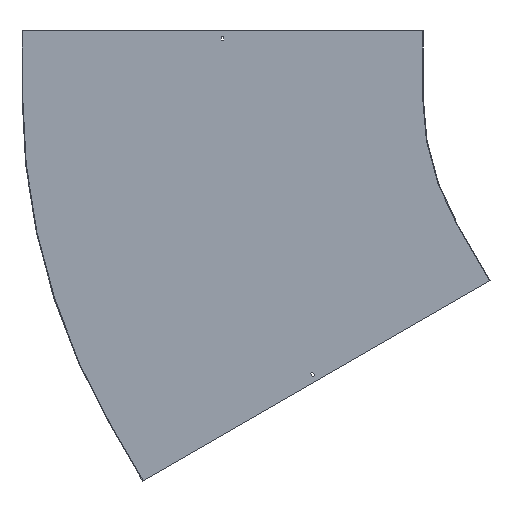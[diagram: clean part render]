
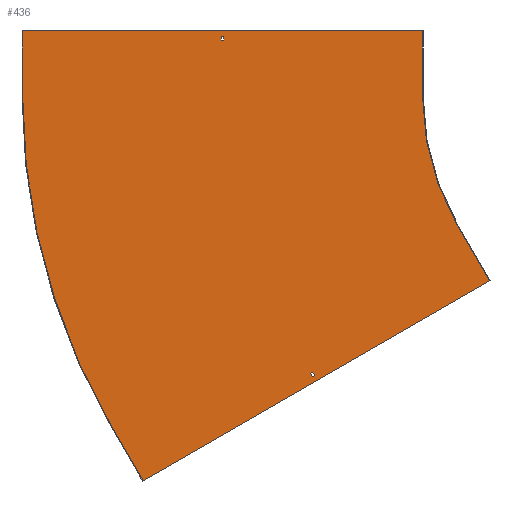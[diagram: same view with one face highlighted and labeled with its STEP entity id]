
A CAD part, front view. The second image highlights one B-rep face of the part: STEP entity #436.
In plain terms, the highlighted planar face has unit normal (0, -1, 0).
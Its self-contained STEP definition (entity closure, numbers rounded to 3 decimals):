
#1 = CARTESIAN_POINT ( 'NONE',  ( -510.955, -1.5, -295. ) ) ;
#23 = CARTESIAN_POINT ( 'NONE',  ( -906.512, -1.5, -523.375 ) ) ;
#27 = DIRECTION ( 'NONE',  ( 0., 0., -1. ) ) ;
#35 = VERTEX_POINT ( 'NONE', #652 ) ;
#38 = EDGE_CURVE ( 'NONE', #483, #448, #443, .T. ) ;
#45 = CARTESIAN_POINT ( 'NONE',  ( -1511.5, -1.5, 150. ) ) ;
#51 = CARTESIAN_POINT ( 'NONE',  ( 0., -1.5, 0. ) ) ;
#56 = ORIENTED_EDGE ( 'NONE', *, *, #722, .F. ) ;
#66 = DIRECTION ( 'NONE',  ( 0.5, 0., -0.866 ) ) ;
#73 = VECTOR ( 'NONE', #94, 1000. ) ;
#91 = ORIENTED_EDGE ( 'NONE', *, *, #267, .F. ) ;
#94 = DIRECTION ( 'NONE',  ( 0., 0., -1. ) ) ;
#95 = EDGE_LOOP ( 'NONE', ( #99, #576, #548, #56, #759, #788, #852, #625 ) ) ;
#99 = ORIENTED_EDGE ( 'NONE', *, *, #442, .F. ) ;
#101 = CARTESIAN_POINT ( 'NONE',  ( 69., -1.5, -119.512 ) ) ;
#102 = VECTOR ( 'NONE', #368, 1000. ) ;
#109 = CARTESIAN_POINT ( 'NONE',  ( 64.5, -1.5, -111.717 ) ) ;
#114 = VERTEX_POINT ( 'NONE', #611 ) ;
#115 = EDGE_CURVE ( 'NONE', #35, #526, #814, .T. ) ;
#123 = EDGE_CURVE ( 'NONE', #371, #804, #274, .T. ) ;
#129 = CARTESIAN_POINT ( 'NONE',  ( -1232.698, -1.5, -884.904 ) ) ;
#149 = VERTEX_POINT ( 'NONE', #337 ) ;
#150 = VECTOR ( 'NONE', #218, 1000. ) ;
#151 = LINE ( 'NONE', #418, #310 ) ;
#160 = VERTEX_POINT ( 'NONE', #798 ) ;
#163 = CARTESIAN_POINT ( 'NONE',  ( -912.141, -1.5, -526.625 ) ) ;
#176 = VERTEX_POINT ( 'NONE', #534 ) ;
#182 = CARTESIAN_POINT ( 'NONE',  ( -1053.25, -1.5, 0. ) ) ;
#187 = DIRECTION ( 'NONE',  ( -0.866, 0., -0.5 ) ) ;
#192 = ORIENTED_EDGE ( 'NONE', *, *, #802, .F. ) ;
#196 = CARTESIAN_POINT ( 'NONE',  ( -1510., -1.5, 0. ) ) ;
#201 = VECTOR ( 'NONE', #556, 1000. ) ;
#204 = ORIENTED_EDGE ( 'NONE', *, *, #551, .T. ) ;
#206 = LINE ( 'NONE', #272, #735 ) ;
#212 = ORIENTED_EDGE ( 'NONE', *, *, #855, .F. ) ;
#218 = DIRECTION ( 'NONE',  ( -0.5, 0., 0.866 ) ) ;
#232 = LINE ( 'NONE', #101, #201 ) ;
#245 = DIRECTION ( 'NONE',  ( 0., 0., 1. ) ) ;
#246 = EDGE_CURVE ( 'NONE', #149, #497, #614, .T. ) ;
#256 = VECTOR ( 'NONE', #431, 1000. ) ;
#263 = ORIENTED_EDGE ( 'NONE', *, *, #429, .T. ) ;
#267 = EDGE_CURVE ( 'NONE', #114, #483, #627, .T. ) ;
#272 = CARTESIAN_POINT ( 'NONE',  ( -1046.75, -1.5, 0. ) ) ;
#274 = LINE ( 'NONE', #196, #384 ) ;
#290 = CARTESIAN_POINT ( 'NONE',  ( 0., -1.5, 129. ) ) ;
#299 = CIRCLE ( 'NONE', #789, 590. ) ;
#310 = VECTOR ( 'NONE', #605, 1000. ) ;
#311 = EDGE_CURVE ( 'NONE', #497, #35, #299, .T. ) ;
#313 = DIRECTION ( 'NONE',  ( 1., 0., 0. ) ) ;
#320 = CARTESIAN_POINT ( 'NONE',  ( -590., -1.5, 0. ) ) ;
#337 = CARTESIAN_POINT ( 'NONE',  ( -590., -1.5, 150. ) ) ;
#340 = CARTESIAN_POINT ( 'NONE',  ( -1046.75, -1.5, 138. ) ) ;
#341 = DIRECTION ( 'NONE',  ( 0., 0., -1. ) ) ;
#354 = EDGE_CURVE ( 'NONE', #768, #854, #624, .T. ) ;
#358 = CARTESIAN_POINT ( 'NONE',  ( -1046.75, -1.5, 129. ) ) ;
#363 = CIRCLE ( 'NONE', #717, 1510. ) ;
#365 = VECTOR ( 'NONE', #187, 1000. ) ;
#368 = DIRECTION ( 'NONE',  ( 1., 0., 0. ) ) ;
#371 = VERTEX_POINT ( 'NONE', #640 ) ;
#377 = CARTESIAN_POINT ( 'NONE',  ( -843.141, -1.5, -646.137 ) ) ;
#384 = VECTOR ( 'NONE', #739, 1000. ) ;
#391 = FACE_OUTER_BOUND ( 'NONE', #95, .T. ) ;
#418 = CARTESIAN_POINT ( 'NONE',  ( -1232.698, -1.5, -884.904 ) ) ;
#420 = VERTEX_POINT ( 'NONE', #377 ) ;
#422 = EDGE_CURVE ( 'NONE', #176, #682, #583, .T. ) ;
#427 = VECTOR ( 'NONE', #245, 1000. ) ;
#429 = EDGE_CURVE ( 'NONE', #854, #176, #522, .T. ) ;
#431 = DIRECTION ( 'NONE',  ( -1., 0., 0. ) ) ;
#433 = DIRECTION ( 'NONE',  ( 0.5, 0., -0.866 ) ) ;
#436 = ADVANCED_FACE ( 'NONE', ( #572, #391, #783 ), #446, .T. ) ;
#442 = EDGE_CURVE ( 'NONE', #804, #149, #646, .T. ) ;
#443 = LINE ( 'NONE', #109, #365 ) ;
#445 = LINE ( 'NONE', #449, #673 ) ;
#446 = PLANE ( 'NONE',  #785 ) ;
#448 = VERTEX_POINT ( 'NONE', #849 ) ;
#449 = CARTESIAN_POINT ( 'NONE',  ( -434.656, -1.5, -424.154 ) ) ;
#457 = DIRECTION ( 'NONE',  ( -0.866, 0., -0.5 ) ) ;
#470 = DIRECTION ( 'NONE',  ( 0., 1., 0. ) ) ;
#481 = DIRECTION ( 'NONE',  ( 0., -1., 0. ) ) ;
#483 = VERTEX_POINT ( 'NONE', #724 ) ;
#497 = VERTEX_POINT ( 'NONE', #320 ) ;
#515 = ORIENTED_EDGE ( 'NONE', *, *, #38, .F. ) ;
#522 = LINE ( 'NONE', #182, #427 ) ;
#526 = VERTEX_POINT ( 'NONE', #738 ) ;
#534 = CARTESIAN_POINT ( 'NONE',  ( -1053.25, -1.5, 138. ) ) ;
#539 = VERTEX_POINT ( 'NONE', #129 ) ;
#548 = ORIENTED_EDGE ( 'NONE', *, *, #622, .F. ) ;
#551 = EDGE_CURVE ( 'NONE', #682, #768, #206, .T. ) ;
#556 = DIRECTION ( 'NONE',  ( 0.866, 0., 0.5 ) ) ;
#559 = LINE ( 'NONE', #163, #661 ) ;
#561 = ORIENTED_EDGE ( 'NONE', *, *, #422, .T. ) ;
#572 = FACE_BOUND ( 'NONE', #808, .T. ) ;
#576 = ORIENTED_EDGE ( 'NONE', *, *, #123, .F. ) ;
#583 = LINE ( 'NONE', #702, #102 ) ;
#605 = DIRECTION ( 'NONE',  ( -0.5, 0., 0.866 ) ) ;
#611 = CARTESIAN_POINT ( 'NONE',  ( -837.512, -1.5, -642.887 ) ) ;
#612 = EDGE_LOOP ( 'NONE', ( #561, #204, #856, #263 ) ) ;
#614 = LINE ( 'NONE', #767, #73 ) ;
#622 = EDGE_CURVE ( 'NONE', #160, #371, #363, .T. ) ;
#624 = LINE ( 'NONE', #290, #256 ) ;
#625 = ORIENTED_EDGE ( 'NONE', *, *, #246, .F. ) ;
#626 = CARTESIAN_POINT ( 'NONE',  ( -1510., -1.5, 150. ) ) ;
#627 = LINE ( 'NONE', #23, #150 ) ;
#630 = CARTESIAN_POINT ( 'NONE',  ( -1053.25, -1.5, 129. ) ) ;
#640 = CARTESIAN_POINT ( 'NONE',  ( -1510., -1.5, 0. ) ) ;
#646 = LINE ( 'NONE', #45, #839 ) ;
#652 = CARTESIAN_POINT ( 'NONE',  ( -510.955, -1.5, -295. ) ) ;
#661 = VECTOR ( 'NONE', #433, 1000. ) ;
#669 = EDGE_CURVE ( 'NONE', #526, #539, #445, .T. ) ;
#673 = VECTOR ( 'NONE', #457, 1000. ) ;
#682 = VERTEX_POINT ( 'NONE', #340 ) ;
#702 = CARTESIAN_POINT ( 'NONE',  ( 0., -1.5, 138. ) ) ;
#717 = AXIS2_PLACEMENT_3D ( 'NONE', #860, #470, #341 ) ;
#722 = EDGE_CURVE ( 'NONE', #539, #160, #151, .T. ) ;
#724 = CARTESIAN_POINT ( 'NONE',  ( -842.012, -1.5, -635.092 ) ) ;
#735 = VECTOR ( 'NONE', #791, 1000. ) ;
#737 = VECTOR ( 'NONE', #66, 1000. ) ;
#738 = CARTESIAN_POINT ( 'NONE',  ( -435.955, -1.5, -424.904 ) ) ;
#739 = DIRECTION ( 'NONE',  ( 0., 0., 1. ) ) ;
#759 = ORIENTED_EDGE ( 'NONE', *, *, #669, .F. ) ;
#767 = CARTESIAN_POINT ( 'NONE',  ( -590., -1.5, 150. ) ) ;
#768 = VERTEX_POINT ( 'NONE', #358 ) ;
#773 = DIRECTION ( 'NONE',  ( 0., -1., 0. ) ) ;
#776 = DIRECTION ( 'NONE',  ( 0., 0., -1. ) ) ;
#783 = FACE_BOUND ( 'NONE', #612, .T. ) ;
#785 = AXIS2_PLACEMENT_3D ( 'NONE', #51, #773, #776 ) ;
#788 = ORIENTED_EDGE ( 'NONE', *, *, #115, .F. ) ;
#789 = AXIS2_PLACEMENT_3D ( 'NONE', #831, #481, #27 ) ;
#791 = DIRECTION ( 'NONE',  ( 0., 0., -1. ) ) ;
#798 = CARTESIAN_POINT ( 'NONE',  ( -1307.698, -1.5, -755. ) ) ;
#802 = EDGE_CURVE ( 'NONE', #420, #114, #232, .T. ) ;
#804 = VERTEX_POINT ( 'NONE', #626 ) ;
#808 = EDGE_LOOP ( 'NONE', ( #91, #192, #212, #515 ) ) ;
#814 = LINE ( 'NONE', #1, #737 ) ;
#831 = CARTESIAN_POINT ( 'NONE',  ( 0., -1.5, 0. ) ) ;
#839 = VECTOR ( 'NONE', #313, 1000. ) ;
#849 = CARTESIAN_POINT ( 'NONE',  ( -847.641, -1.5, -638.342 ) ) ;
#852 = ORIENTED_EDGE ( 'NONE', *, *, #311, .F. ) ;
#854 = VERTEX_POINT ( 'NONE', #630 ) ;
#855 = EDGE_CURVE ( 'NONE', #448, #420, #559, .T. ) ;
#856 = ORIENTED_EDGE ( 'NONE', *, *, #354, .T. ) ;
#860 = CARTESIAN_POINT ( 'NONE',  ( 0., -1.5, 0. ) ) ;
